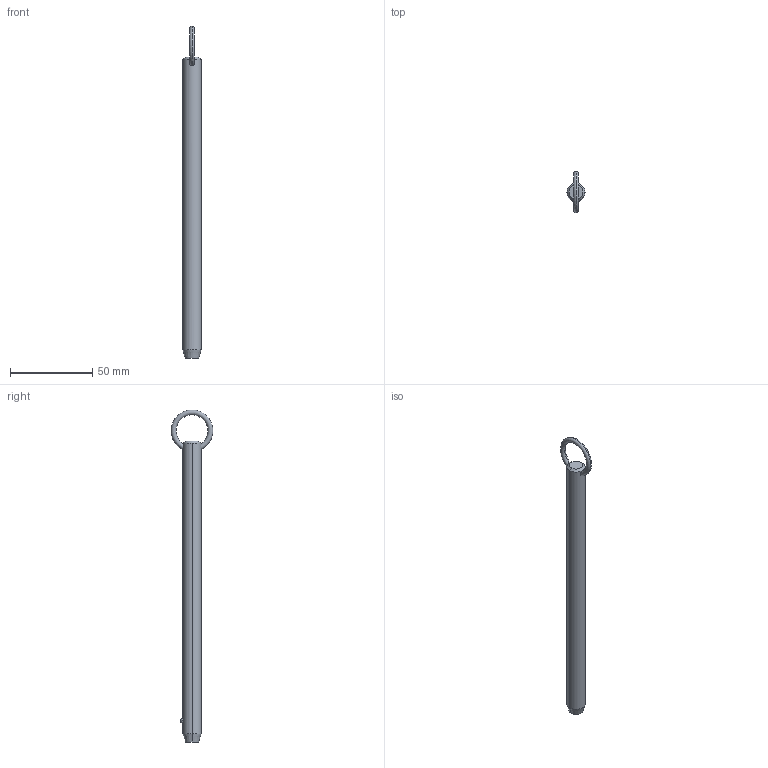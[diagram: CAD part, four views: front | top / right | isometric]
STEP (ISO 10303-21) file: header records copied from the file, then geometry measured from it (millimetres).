
FILE_DESCRIPTION (( 'STEP AP203' ), '1' );
FILE_NAME ('P1250.050-640.step', '2019-07-29T20:41:55', ( '' ), ( '' ), 'SwSTEP 2.0', 'SolidWorks 2017', '' );
FILE_SCHEMA (( 'CONFIG_CONTROL_DESIGN' ));
Length unit declared in the file: millimetre
Products named in the file (1): P1250.050-640
Bounding box: 11.1 x 25.32 x 202.15 mm (x, y, z)
Volume: 18010.8 mm3; surface area: 7041.1 mm2
Topology: 1 solids, 1 shells, 12 faces, 28 edges, 17 vertices
Faces by surface type: cone 4, torus 2, sphere 2, cylinder 2, plane 2
Entity records: 523 total; most frequent: CARTESIAN_POINT 190, DIRECTION 56, ORIENTED_EDGE 48, AXIS2_PLACEMENT_3D 25, EDGE_CURVE 24, VERTEX_POINT 15, EDGE_LOOP 15, ADVANCED_FACE 12
